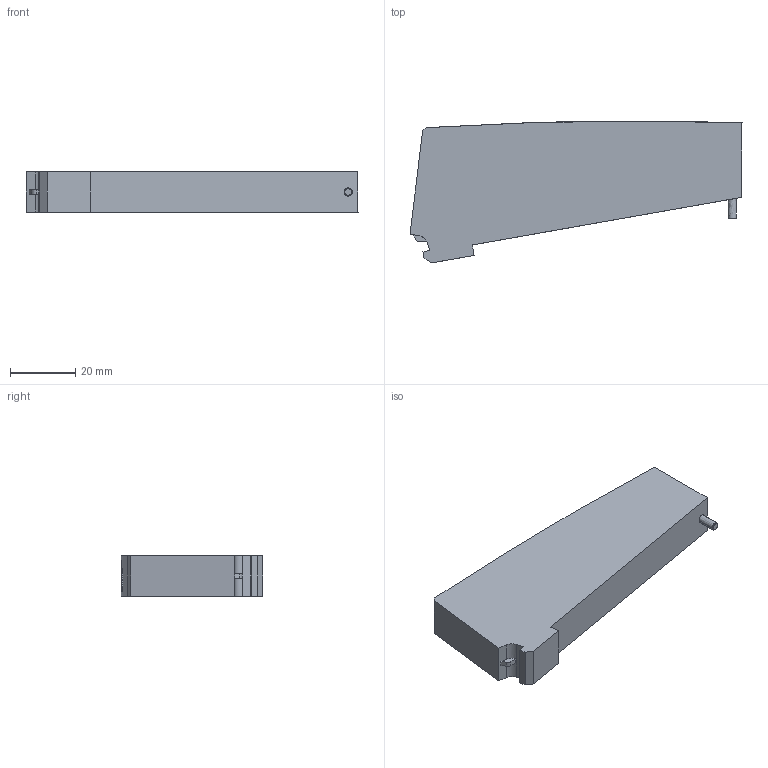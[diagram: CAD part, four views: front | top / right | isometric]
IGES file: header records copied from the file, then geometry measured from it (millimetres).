
Start section:  PTC IGES file: R422103008\r422103008.iges
Global section: file name: R422103008\r422103008.iges; native system: Creo Parametric by PTC Inc.; preprocessor: 2023092; author: GND7HC; organization: Unknown; date: 20240529.145442; units: millimetre
Bounding box: 101.88 x 43.54 x 12.3 mm (x, y, z)
Surface area: 10042 mm2 (no closed solid volume)
Topology: 0 solids, 0 shells, 79 faces, 404 edges, 403 vertices
Faces by surface type: bspline 49, revolution 30
